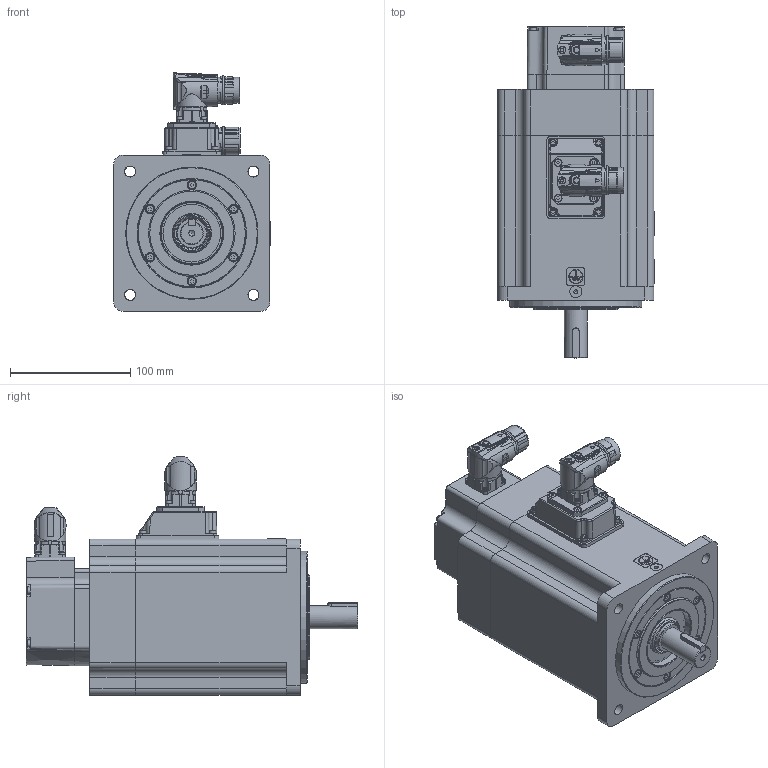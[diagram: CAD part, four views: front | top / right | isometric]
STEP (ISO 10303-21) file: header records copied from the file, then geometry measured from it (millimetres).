
FILE_DESCRIPTION( ( 'Unknown' ), '1' );
FILE_NAME( 'U:/05_Progetto TCE/010-TCE motor drawings/TCE130/Vuoti/TCE130 5D XX 3 A1 1 C2.stp', 'Unknown', ( 'Unknown' ), ( 'Unknown' ), 'PSStep 17.0.49', 'Unknown', ' ' );
FILE_SCHEMA( ( 'AUTOMOTIVE_DESIGN { 1 0 10303 214 1 1 1 1 }' ) );
Length unit declared in the file: millimetre
Products named in the file (13): 003103001510
Bounding box: 130.3 x 276 x 198.5 mm (x, y, z)
Volume: 1236420 mm3; surface area: 374977.7 mm2
Topology: 13 solids, 83 shells, 2990 faces, 7472 edges, 4820 vertices
Faces by surface type: plane 1447, cylinder 743, cone 292, bspline 230, torus 159, sphere 81, extrusion 38
Full cylindrical faces by diameter (mm): 0.5 x1, 1 x21, 1.2 x17, 1.4 x4, 2 x4, 2.013 x4, 2.2 x2, 2.459 x23, 2.5 x10, 2.6 x4, 2.8 x4, 3 x28, 3.242 x30, 3.5 x8, 4 x15, 4.134 x8, 4.4 x4, 4.5 x12, 4.7 x4, 4.917 x2, 5 x8, 5.5 x19, 5.8 x1, 5.9 x2, 6.8 x1, 7 x10, 8 x14, 8.5 x8, 10 x1, 10.5 x8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
Entity records: 123710 total; most frequent: CARTESIAN_POINT 37680, DIRECTION 13202, ORIENTED_EDGE 12802, EDGE_CURVE 6401, AXIS2_PLACEMENT_3D 4958, VERTEX_POINT 4542, EDGE_LOOP 3992, FACE_OUTER_BOUND 3466
